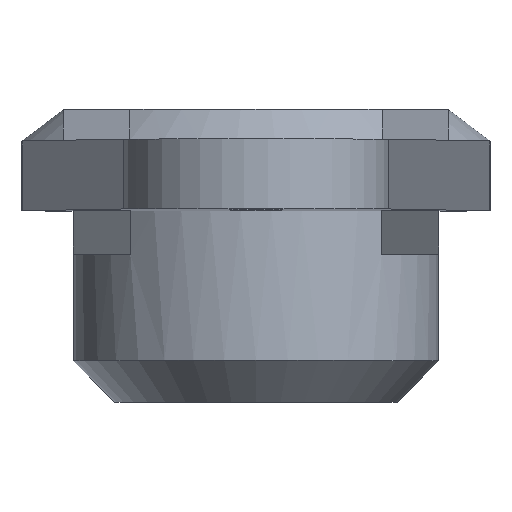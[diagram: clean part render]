
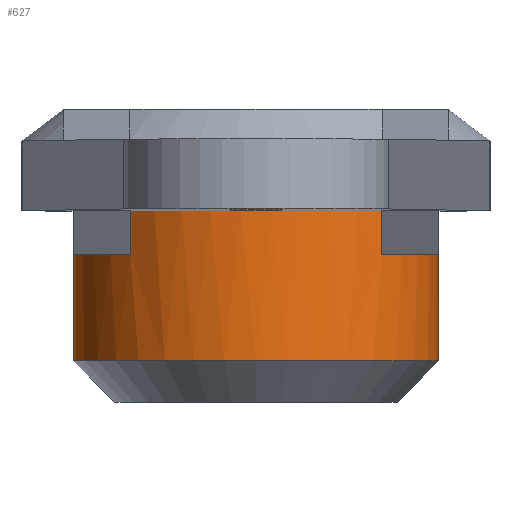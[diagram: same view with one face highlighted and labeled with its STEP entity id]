
A CAD part, top view. The second image highlights one B-rep face of the part: STEP entity #627.
In plain terms, the highlighted cylindrical face has radius 5.5 mm (diameter 11 mm), a full revolution.
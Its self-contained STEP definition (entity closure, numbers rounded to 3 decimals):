
#20=CYLINDRICAL_SURFACE('',#693,5.5);
#74=FACE_OUTER_BOUND('',#111,.T.);
#111=EDGE_LOOP('',(#482,#483,#484,#485,#486,#487,#488,#489,#490,#491,#492));
#157=LINE('',#966,#211);
#166=LINE('',#985,#220);
#172=LINE('',#1007,#226);
#173=LINE('',#1011,#227);
#174=LINE('',#1015,#228);
#211=VECTOR('',#773,10.);
#220=VECTOR('',#790,10.);
#226=VECTOR('',#806,5.5);
#227=VECTOR('',#809,10.);
#228=VECTOR('',#812,10.);
#263=CIRCLE('',#688,5.5);
#264=CIRCLE('',#694,5.5);
#265=CIRCLE('',#695,5.5);
#266=CIRCLE('',#696,5.5);
#267=CIRCLE('',#697,5.5);
#300=VERTEX_POINT('',#964);
#301=VERTEX_POINT('',#965);
#306=VERTEX_POINT('',#979);
#307=VERTEX_POINT('',#983);
#312=VERTEX_POINT('',#1005);
#313=VERTEX_POINT('',#1008);
#314=VERTEX_POINT('',#1010);
#315=VERTEX_POINT('',#1012);
#316=VERTEX_POINT('',#1014);
#360=EDGE_CURVE('',#300,#301,#157,.T.);
#367=EDGE_CURVE('',#301,#306,#263,.T.);
#370=EDGE_CURVE('',#306,#307,#166,.T.);
#378=EDGE_CURVE('',#312,#312,#264,.T.);
#379=EDGE_CURVE('',#312,#306,#172,.T.);
#380=EDGE_CURVE('',#307,#313,#265,.T.);
#381=EDGE_CURVE('',#313,#314,#173,.T.);
#382=EDGE_CURVE('',#314,#315,#266,.T.);
#383=EDGE_CURVE('',#315,#316,#174,.T.);
#384=EDGE_CURVE('',#316,#300,#267,.T.);
#482=ORIENTED_EDGE('',*,*,#378,.F.);
#483=ORIENTED_EDGE('',*,*,#379,.T.);
#484=ORIENTED_EDGE('',*,*,#370,.T.);
#485=ORIENTED_EDGE('',*,*,#380,.T.);
#486=ORIENTED_EDGE('',*,*,#381,.T.);
#487=ORIENTED_EDGE('',*,*,#382,.T.);
#488=ORIENTED_EDGE('',*,*,#383,.T.);
#489=ORIENTED_EDGE('',*,*,#384,.T.);
#490=ORIENTED_EDGE('',*,*,#360,.T.);
#491=ORIENTED_EDGE('',*,*,#367,.T.);
#492=ORIENTED_EDGE('',*,*,#379,.F.);
#627=ADVANCED_FACE('',(#74),#20,.T.);
#688=AXIS2_PLACEMENT_3D('',#980,#784,#785);
#693=AXIS2_PLACEMENT_3D('',#1004,#802,#803);
#694=AXIS2_PLACEMENT_3D('',#1006,#804,#805);
#695=AXIS2_PLACEMENT_3D('',#1009,#807,#808);
#696=AXIS2_PLACEMENT_3D('',#1013,#810,#811);
#697=AXIS2_PLACEMENT_3D('',#1016,#813,#814);
#773=DIRECTION('',(0.,-1.,0.));
#784=DIRECTION('center_axis',(0.,-1.,0.));
#785=DIRECTION('ref_axis',(1.,0.,0.));
#790=DIRECTION('',(0.,1.,0.));
#802=DIRECTION('center_axis',(0.,-1.,0.));
#803=DIRECTION('ref_axis',(1.,0.,0.));
#804=DIRECTION('center_axis',(0.,-1.,0.));
#805=DIRECTION('ref_axis',(1.,0.,0.));
#806=DIRECTION('',(0.,1.,0.));
#807=DIRECTION('center_axis',(0.,-1.,0.));
#808=DIRECTION('ref_axis',(1.,0.,0.));
#809=DIRECTION('',(0.,-1.,0.));
#810=DIRECTION('center_axis',(0.,-1.,0.));
#811=DIRECTION('ref_axis',(1.,0.,0.));
#812=DIRECTION('',(0.,1.,0.));
#813=DIRECTION('center_axis',(0.,-1.,0.));
#814=DIRECTION('ref_axis',(1.,0.,0.));
#964=CARTESIAN_POINT('',(-3.78,0.,3.995));
#965=CARTESIAN_POINT('',(-3.78,-1.31,3.995));
#966=CARTESIAN_POINT('',(-3.78,-2.255,3.995));
#979=CARTESIAN_POINT('',(-5.5,-1.31,0.));
#980=CARTESIAN_POINT('Origin',(0.,-1.31,0.));
#983=CARTESIAN_POINT('',(-5.5,0.,0.));
#985=CARTESIAN_POINT('',(-5.5,-2.255,0.));
#1004=CARTESIAN_POINT('Origin',(0.,-2.255,0.));
#1005=CARTESIAN_POINT('',(-5.5,-4.51,0.));
#1006=CARTESIAN_POINT('Origin',(0.,-4.51,0.));
#1007=CARTESIAN_POINT('',(-5.5,-2.255,0.));
#1008=CARTESIAN_POINT('',(5.5,0.,0.));
#1009=CARTESIAN_POINT('Origin',(0.,0.,0.));
#1010=CARTESIAN_POINT('',(5.5,-1.31,0.));
#1011=CARTESIAN_POINT('',(5.5,-2.255,0.));
#1012=CARTESIAN_POINT('',(3.78,-1.31,3.995));
#1013=CARTESIAN_POINT('Origin',(0.,-1.31,0.));
#1014=CARTESIAN_POINT('',(3.78,0.,3.995));
#1015=CARTESIAN_POINT('',(3.78,-2.255,3.995));
#1016=CARTESIAN_POINT('Origin',(0.,0.,0.));
